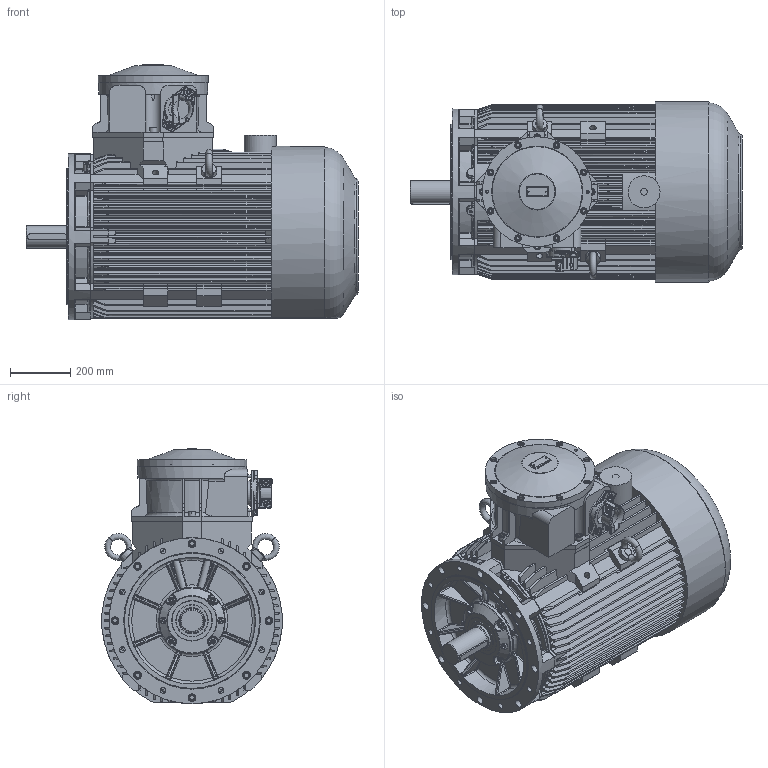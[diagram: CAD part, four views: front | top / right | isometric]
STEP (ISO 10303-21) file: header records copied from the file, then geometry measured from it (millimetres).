
FILE_DESCRIPTION(/* description */ ('Unknown'),/* implementation_level */ '2;1');
FILE_NAME(/* name */ 'cSTKe280SM4-8-IE2-3',/* time_stamp */ '2021-12-27T09:29:07+01:00',/* author */ ('Unknown'),/* organization */ ('Unknown'),/* preprocessor_version */ 'ST-DEVELOPER v16.7',/* originating_system */ 'DEX',/* authorisation */ $);
FILE_SCHEMA (('AP203_CONFIGURATION_CONTROLLED_3D_DESIGN_OF_MECHANICAL_PARTS_AND_ASSEMBLIES_MIM_LF { 1 0 10303 203 3 1 4 }','AUTOMOTIVE_DESIGN {1 0 10303 214 3 1 1}'));
Products named in the file (1): cSTKe280SM4-8-IE2-3
Bounding box: 1100.13 x 597.51 x 846.76 mm (x, y, z)
Volume: 243130561.9 mm3; surface area: 5221770.6 mm2
Topology: 1 solids, 48 shells, 2795 faces, 7100 edges, 4443 vertices
Faces by surface type: plane 1041, cylinder 888, cone 295, bspline 256, torus 233, sphere 82
Full cylindrical faces by diameter (mm): 2.459 x4, 2.8 x2, 4.5 x1, 6 x2, 8.16 x4, 8.376 x6, 8.917 x2, 9.853 x8, 10 x12, 10.106 x8, 11 x6, 12 x18, 13.5 x8, 13.546 x8, 13.835 x2, 16 x28, 17.5 x12, 18 x8, 18.376 x1, 19 x8, 19.6 x2, 20.752 x6, 22 x8, 22.376 x1, 24 x12, 26 x8, 67 x1, 75 x1, 81.5 x1, 84 x1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
Entity records: 110264 total; most frequent: CARTESIAN_POINT 27050, ORIENTED_EDGE 13084, DIRECTION 13029, EDGE_CURVE 6542, AXIS2_PLACEMENT_3D 5064, VERTEX_POINT 4312, FACE_BOUND 3356, EDGE_LOOP 3339
